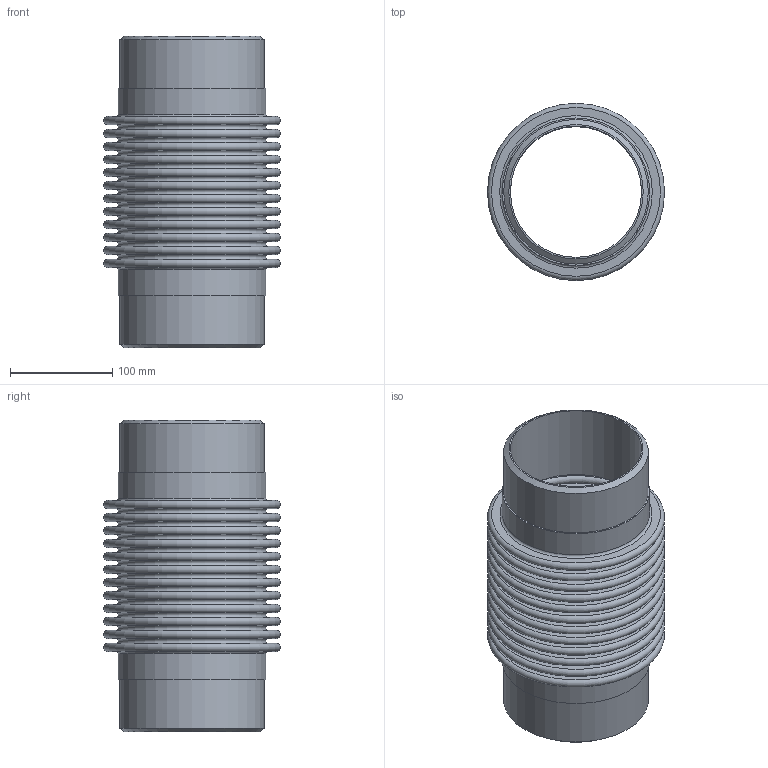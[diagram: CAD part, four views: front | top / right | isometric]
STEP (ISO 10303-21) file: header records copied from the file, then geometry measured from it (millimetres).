
FILE_DESCRIPTION(/* description */ ('EXPANSION JOINT,SINGLE, WELD ENDS,4 INCH NOMINAL'),/* implementation_level */ '2;1');
FILE_NAME(/* name */ 'ASSEMBLY US-5-12-300L.stp',/* time_stamp */ '2026-07-28T15:56:15-05:00',/* author */ ('jorgef'),/* organization */ (''),/* preprocessor_version */ 'ST-DEVELOPER v20.1',/* originating_system */ 'Autodesk Inventor 2026',/* authorisation */ '');
FILE_SCHEMA (('AUTOMOTIVE_DESIGN { 1 0 10303 214 3 1 1 }'));
Length unit declared in the file: inch
Products named in the file (3): ASSEMBLY  US-5-12-300L; STOCK BELLOW - US-5-12-300L; PIPE- US-5-12-300L
Assembly tree (3 placements, depth 2):
  ASSEMBLY  US-5-12-300L
    STOCK BELLOW - US-5-12-300L
    PIPE- US-5-12-300L  x2
Bounding box: 172.97 x 172.97 x 304.8 mm (x, y, z)
Volume: 773780.3 mm3; surface area: 613353.7 mm2
Topology: 5 solids, 5 shells, 118 faces, 180 edges, 121 vertices
Faces by surface type: plane 58, torus 50, cylinder 8, cone 2
Full cylindrical faces by diameter (mm): 128.194 x2, 141.224 x2, 141.3 x2, 144.272 x2
Entity records: 2769 total; most frequent: DIRECTION 573, CARTESIAN_POINT 405, ORIENTED_EDGE 342, AXIS2_PLACEMENT_3D 283, EDGE_CURVE 171, EDGE_LOOP 169, CIRCLE 164, VERTEX_POINT 114
